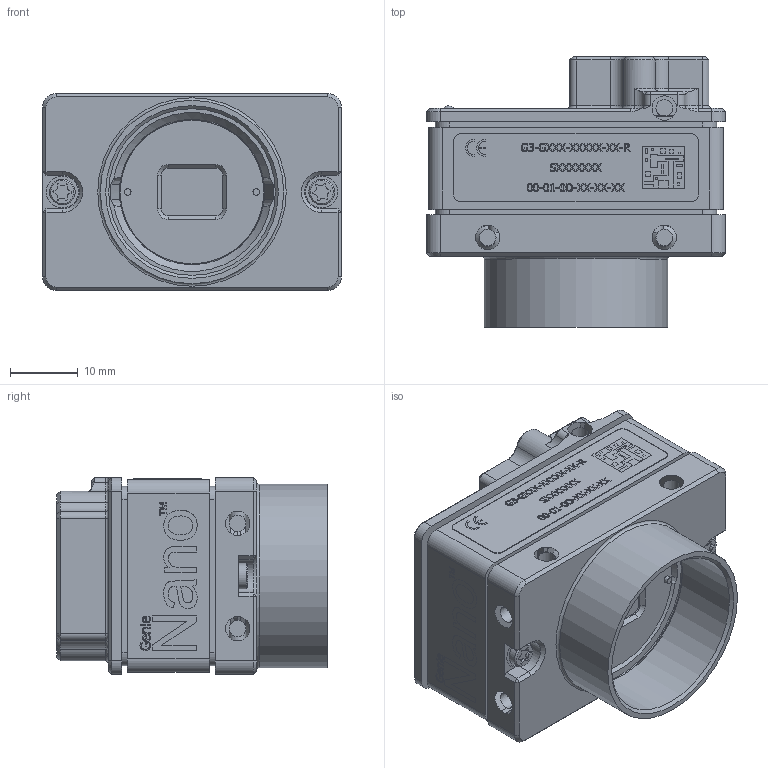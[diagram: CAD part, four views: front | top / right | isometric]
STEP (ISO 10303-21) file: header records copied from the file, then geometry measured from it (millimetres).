
FILE_DESCRIPTION(/* description */ (''),/* implementation_level */ '2;1');
FILE_NAME(/* name */ 'C:\Users\sduhra\Desktop\cad MODELS\NOVA CAMERA ASSEMBLY-SIZE 2 (C-MOUNT).stp',/* time_stamp */ '2018-07-06T15:08:47-04:00',/* author */ ('sduhra'),/* organization */ (''),/* preprocessor_version */ 'ST-DEVELOPER v17',/* originating_system */ 'Autodesk Inventor 2018',/* authorisation */ '');
FILE_SCHEMA (('AUTOMOTIVE_DESIGN { 1 0 10303 214 3 1 1 }'));
Products named in the file (1): NOVA CAMERA ASSEMBLY_SIZE 2 (C-MNT)
Bounding box: 44 x 39.84 x 29 mm (x, y, z)
Volume: 27163.8 mm3; surface area: 13979.8 mm2
Topology: 1 solids, 1 shells, 2317 faces, 6281 edges, 4063 vertices
Faces by surface type: plane 1459, cylinder 418, bspline 304, cone 90, torus 38, sphere 8
Full cylindrical faces by diameter (mm): 1.2 x2, 1.567 x4, 1.7 x1, 2.459 x9, 3.8 x2, 4.7 x2, 24.536 x1, 25.654 x1, 27 x1
Entity records: 79923 total; most frequent: CARTESIAN_POINT 20983, ORIENTED_EDGE 12548, DIRECTION 10560, EDGE_CURVE 6274, LINE 4454, VECTOR 4454, VERTEX_POINT 4063, AXIS2_PLACEMENT_3D 3053
